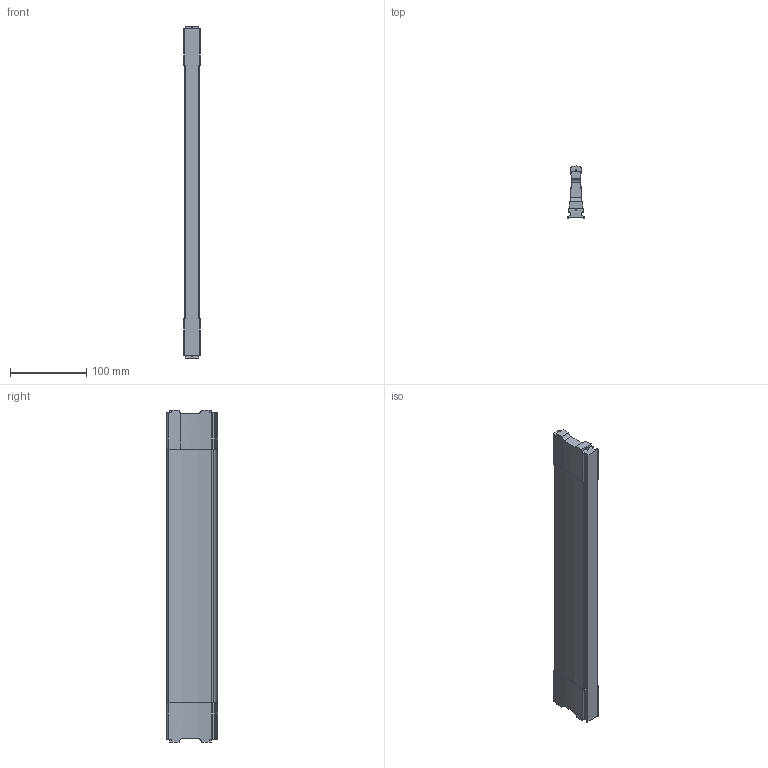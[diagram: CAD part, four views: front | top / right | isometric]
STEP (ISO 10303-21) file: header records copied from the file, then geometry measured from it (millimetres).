
FILE_DESCRIPTION (( 'STEP AP214' ), '1' );
FILE_NAME ('Traverse NOVAPro NL450 Mass X425,4.step', '2010-09-21T13:16:55', ( 'grass' ), ( '' ), 'SwSTEP 2.0', 'SolidWorks 2010', '' );
FILE_SCHEMA (( 'AUTOMOTIVE_DESIGN' ));
Length unit declared in the file: millimetre
Products named in the file (1): Traverse NOVAPro NL450 Mass X425,4
Bounding box: 21.4 x 67.5 x 434.4 mm (x, y, z)
Volume: 363897.4 mm3; surface area: 75988.7 mm2
Topology: 1 solids, 1 shells, 125 faces, 369 edges, 246 vertices
Faces by surface type: cylinder 68, plane 57
Entity records: 4377 total; most frequent: CARTESIAN_POINT 879, DIRECTION 753, ORIENTED_EDGE 738, EDGE_CURVE 369, AXIS2_PLACEMENT_3D 268, VERTEX_POINT 246, LINE 217, VECTOR 217
